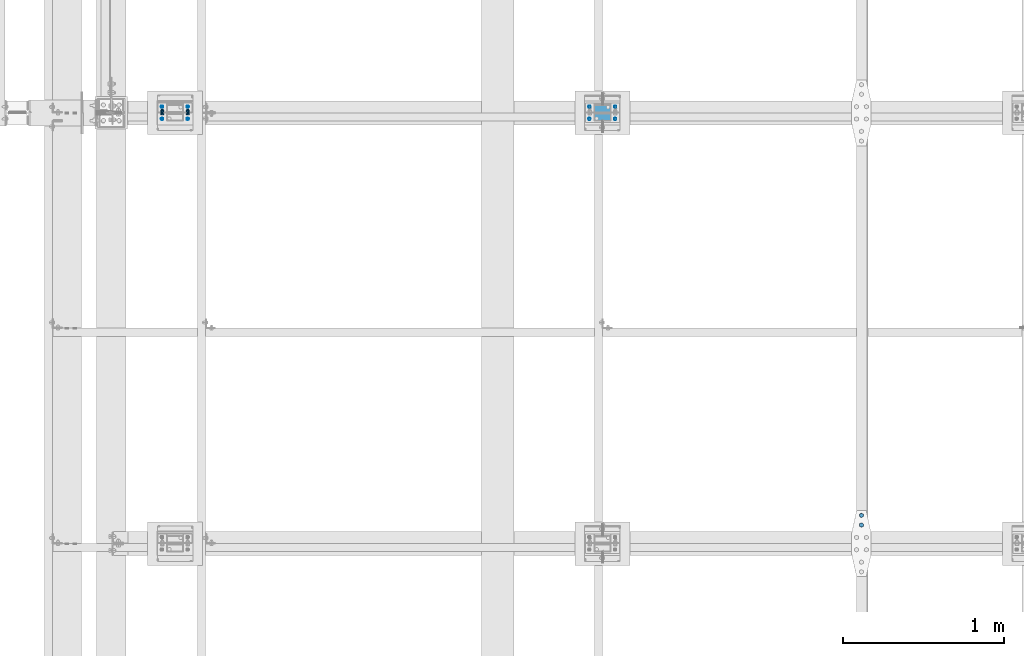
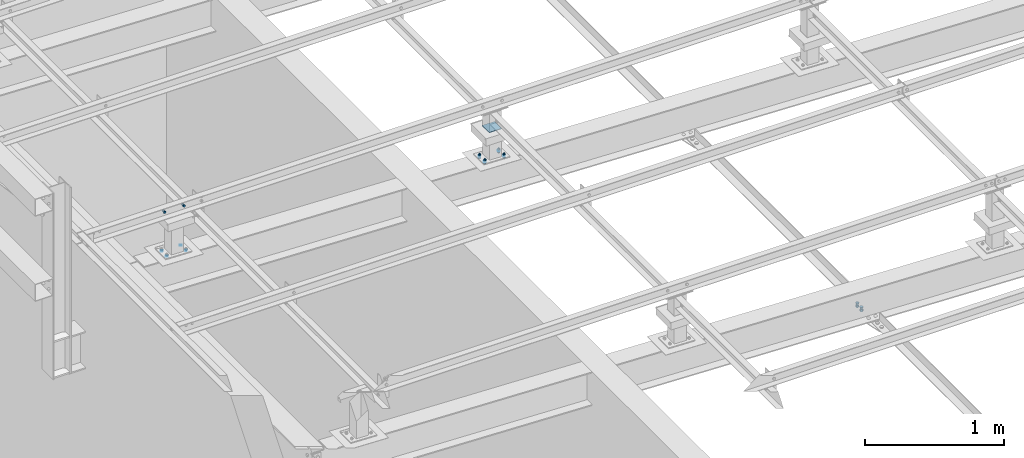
# One storey, part 183 of 3134: 6 mechanical fasteners, 5 elements without a shape of their own.
"""IFC2X3 building model written with IfcOpenShell, lengths in millimetres."""

from ifc_helpers import new_model, si_unit, frame, origin_with_axes, place, context, subcontext, project, spatial, faceted_brep, source, transform, mapped, material, type_object, element, aggregate, save


model = new_model("IFC2X3")

# Units and contexts
model_context = context("Model", 3, precision=1e-05, world=origin_with_axes())
body_context = subcontext(model_context, "Body", "Model", "MODEL_VIEW")
ifc_project = project(units=[si_unit("LENGTHUNIT", "METRE", prefix="MILLI"), si_unit("AREAUNIT", "SQUARE_METRE"), si_unit("VOLUMEUNIT", "CUBIC_METRE"), si_unit("MASSUNIT", "GRAM", prefix="KILO"), si_unit("TIMEUNIT", "SECOND"), si_unit("PLANEANGLEUNIT", "RADIAN"), si_unit("SOLIDANGLEUNIT", "STERADIAN"), si_unit("THERMODYNAMICTEMPERATUREUNIT", "DEGREE_CELSIUS"), si_unit("LUMINOUSINTENSITYUNIT", "LUMEN")], contexts=[model_context])

# Site, building, storey
site_placement = place(None, origin_with_axes())
site = spatial("IfcSite", under=ifc_project, at=site_placement, CompositionType="ELEMENT")
building_placement = place(site_placement, origin_with_axes())
building = spatial("IfcBuilding", under=site, at=building_placement, Name="Undefined", CompositionType="ELEMENT")
storey_placement = place(building_placement, origin_with_axes())
storey = spatial("IfcBuildingStorey", under=building, at=storey_placement, Name="Undefined", CompositionType="ELEMENT", Elevation=0.0)

# Assembly, mechanical fastener
assembly_1_placement = place(storey_placement, origin_with_axes())
assembly_1 = element("IfcElementAssembly", 1, at=assembly_1_placement, inside=storey, Name="PL8", AssemblyPlace="NOTDEFINED", PredefinedType="RIGID_FRAME")
ifc_material_1 = material(Name="8.8")
mechanical_fastener_type = type_object("IfcMechanicalFastenerType", Name="Bolt assembly")
shared_shape_1 = source(origin_with_axes(), body_context, "Body", "Brep", [
    faceted_brep([(13.856406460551, -21.0000017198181, 0.0), (6.92820323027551, -21.0000017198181, 12.0), (-6.92820323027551, -21.0000017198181, 12.0), (-13.856406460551, -21.0000017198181, 1.69692038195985e-15), (-6.92820323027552, -21.0000017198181, -12.0), (6.9282032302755, -21.0000017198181, -12.0), (6.9282032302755, -11.0000017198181, -12.0), (-6.92820323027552, -11.0000017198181, -12.0), (-13.856406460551, -11.0000017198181, 1.69692038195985e-15), (-6.92820323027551, -11.0000017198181, 12.0), (6.92820323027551, -11.0000017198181, 12.0), (13.856406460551, -11.0000017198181, 0.0), (8.0, -11.0000017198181, 0.0), (6.92820323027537, -11.0000017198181, 4.00000000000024), (3.99999999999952, -11.0000017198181, 6.92820323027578), (-8.29068785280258e-13, -11.0000017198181, 8.0), (-4.00000000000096, -11.0000017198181, 6.92820323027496), (-6.9282032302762, -11.0000017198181, 3.99999999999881), (-8.0, -11.0000017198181, -1.65813757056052e-12), (-6.92820323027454, -11.0000017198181, -4.00000000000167), (-3.99999999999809, -11.0000017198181, -6.92820323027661), (2.47832457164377e-12, -11.0000017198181, -8.0), (4.00000000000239, -11.0000017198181, -6.92820323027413), (6.92820323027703, -11.0000017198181, -3.99999999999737), (6.92820323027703, 23.9999999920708, -3.99999999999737), (4.00000000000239, 23.9999999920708, -6.92820323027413), (2.47832457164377e-12, 23.9999999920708, -8.0), (-3.99999999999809, 23.9999999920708, -6.92820323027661), (-6.92820323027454, 23.9999999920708, -4.00000000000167), (-8.0, 23.9999999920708, -1.65813757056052e-12), (-6.9282032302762, 23.9999999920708, 3.99999999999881), (-4.00000000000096, 23.9999999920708, 6.92820323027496), (-8.29068785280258e-13, 23.9999999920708, 8.0), (3.99999999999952, 23.9999999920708, 6.92820323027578), (6.92820323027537, 23.9999999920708, 4.00000000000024), (8.0, 23.9999999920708, 0.0), (13.856406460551, 3.99999999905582, 0.0), (6.92820323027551, 3.99999999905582, 12.0), (-6.92820323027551, 3.99999999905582, 12.0), (-13.856406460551, 3.99999999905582, 1.69692038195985e-15), (-6.92820323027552, 3.99999999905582, -12.0), (6.9282032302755, 3.99999999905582, -12.0), (6.9282032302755, 16.9999999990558, -12.0), (-6.92820323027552, 16.9999999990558, -12.0), (-13.856406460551, 16.9999999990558, 1.69692038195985e-15), (-6.92820323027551, 16.9999999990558, 12.0), (6.92820323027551, 16.9999999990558, 12.0), (13.856406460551, 16.9999999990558, 0.0)], [[[0, 1, 2, 3, 4, 5]], [[6, 7, 8, 9, 10, 11]], [[0, 11, 10, 1]], [[1, 10, 9, 2]], [[2, 9, 8, 3]], [[3, 8, 7, 4]], [[4, 7, 6, 5]], [[5, 6, 11, 0]], [[12, 13, 14, 15, 16, 17, 18, 19, 20, 21, 22, 23]], [[24, 25, 26, 27, 28, 29, 30, 31, 32, 33, 34, 35]], [[12, 35, 34, 13]], [[13, 34, 33, 14]], [[14, 33, 32, 15]], [[15, 32, 31, 16]], [[16, 31, 30, 17]], [[17, 30, 29, 18]], [[18, 29, 28, 19]], [[19, 28, 27, 20]], [[20, 27, 26, 21]], [[21, 26, 25, 22]], [[22, 25, 24, 23]], [[23, 24, 35, 12]], [[36, 37, 38, 39, 40, 41]], [[42, 43, 44, 45, 46, 47]], [[36, 47, 46, 37]], [[37, 46, 45, 38]], [[38, 45, 44, 39]], [[39, 44, 43, 40]], [[40, 43, 42, 41]], [[41, 42, 47, 36]]]),
    faceted_brep([(9.0, -10.9000017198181, 0.0), (7.79422863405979, -10.9000017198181, 4.50000000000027), (4.49999999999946, -10.9000017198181, 7.79422863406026), (-9.3270238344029e-13, -10.9000017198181, 9.0), (-4.50000000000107, -10.9000017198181, 7.79422863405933), (-7.79422863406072, -10.9000017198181, 4.49999999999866), (-9.0, -10.9000017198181, -1.86540476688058e-12), (-7.79422863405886, -10.9000017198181, -4.50000000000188), (-4.49999999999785, -10.9000017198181, -7.79422863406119), (2.78811514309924e-12, -10.9000017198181, -9.0), (4.50000000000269, -10.9000017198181, -7.7942286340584), (7.79422863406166, -10.9000017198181, -4.49999999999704), (7.79422863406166, -3.9, -4.49999999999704), (4.50000000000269, -3.9, -7.7942286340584), (2.78811514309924e-12, -3.9, -9.0), (-4.49999999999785, -3.9, -7.79422863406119), (-7.79422863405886, -3.9, -4.50000000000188), (-9.0, -3.9, -1.86540476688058e-12), (-7.79422863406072, -3.9, 4.49999999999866), (-4.50000000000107, -3.9, 7.79422863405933), (-9.3270238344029e-13, -3.9, 9.0), (4.49999999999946, -3.9, 7.79422863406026), (7.79422863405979, -3.9, 4.50000000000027), (9.0, -3.9, 0.0), (9.0, -4.10000000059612, 0.0), (7.79422863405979, -4.10000000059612, 4.50000000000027), (4.49999999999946, -4.10000000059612, 7.79422863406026), (-9.3270238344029e-13, -4.10000000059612, 9.0), (-4.50000000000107, -4.10000000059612, 7.79422863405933), (-7.79422863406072, -4.10000000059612, 4.49999999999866), (-9.0, -4.10000000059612, -1.86540476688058e-12), (-7.79422863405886, -4.10000000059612, -4.50000000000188), (-4.49999999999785, -4.10000000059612, -7.79422863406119), (2.78811514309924e-12, -4.10000000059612, -9.0), (4.50000000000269, -4.10000000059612, -7.7942286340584), (7.79422863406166, -4.10000000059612, -4.49999999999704), (7.79422863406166, 4.00000375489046, -4.49999999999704), (4.50000000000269, 4.00000375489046, -7.7942286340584), (2.78811514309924e-12, 4.00000375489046, -9.0), (-4.49999999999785, 4.00000375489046, -7.79422863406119), (-7.79422863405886, 4.00000375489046, -4.50000000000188), (-9.0, 4.00000375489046, -1.86540476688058e-12), (-7.79422863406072, 4.00000375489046, 4.49999999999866), (-4.50000000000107, 4.00000375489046, 7.79422863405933), (-9.3270238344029e-13, 4.00000375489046, 9.0), (4.49999999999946, 4.00000375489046, 7.79422863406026), (7.79422863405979, 4.00000375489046, 4.50000000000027), (9.0, 4.00000375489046, 0.0)], [[[0, 1, 2, 3, 4, 5, 6, 7, 8, 9, 10, 11]], [[12, 13, 14, 15, 16, 17, 18, 19, 20, 21, 22, 23]], [[0, 23, 22, 1]], [[1, 22, 21, 2]], [[2, 21, 20, 3]], [[3, 20, 19, 4]], [[4, 19, 18, 5]], [[5, 18, 17, 6]], [[6, 17, 16, 7]], [[7, 16, 15, 8]], [[8, 15, 14, 9]], [[9, 14, 13, 10]], [[10, 13, 12, 11]], [[11, 12, 23, 0]], [[24, 25, 26, 27, 28, 29, 30, 31, 32, 33, 34, 35]], [[36, 37, 38, 39, 40, 41, 42, 43, 44, 45, 46, 47]], [[24, 47, 46, 25]], [[25, 46, 45, 26]], [[26, 45, 44, 27]], [[27, 44, 43, 28]], [[28, 43, 42, 29]], [[29, 42, 41, 30]], [[30, 41, 40, 31]], [[31, 40, 39, 32]], [[32, 39, 38, 33]], [[33, 38, 37, 34]], [[34, 37, 36, 35]], [[35, 36, 47, 24]]]),
])
mechanical_fastener_1_placement = place(assembly_1_placement, frame((4647.50483525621, 37696.25, 3576.15051900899), z_axis=(-0.999388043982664, 0.0, 0.0349791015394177), x_axis=(0.0, 1.0, 0.0)))
mechanical_fastener_1 = element("IfcMechanicalFastener", 2, at=mechanical_fastener_1_placement, type_object=mechanical_fastener_type, material=ifc_material_1, Name="Bolt assembly", NominalDiameter=16.0, NominalLength=35.0, context=body_context, shape_type="MappedRepresentation", body=[
    mapped(shared_shape_1, transform((0.0, 0.0, 0.0))),
    mapped(shared_shape_1, transform((59.9999999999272, 0.0, 5.40239852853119e-10))),
])
aggregate(assembly_1, [mechanical_fastener_1])

assembly_2_placement = place(storey_placement, origin_with_axes())
assembly_2 = element("IfcElementAssembly", 3, at=assembly_2_placement, inside=storey, AssemblyPlace="NOTDEFINED", PredefinedType="RIGID_FRAME")
shared_shape_2 = source(origin_with_axes(), body_context, "Body", "Brep", [
    faceted_brep([(10.9696551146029, -4.1972538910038, 0.0), (5.48482755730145, -4.1972538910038, 9.5), (-5.48482755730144, -4.1972538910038, 9.5), (-10.9696551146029, -4.1972538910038, 1.34339530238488e-15), (-5.48482755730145, -4.1972538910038, -9.5), (5.48482755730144, -4.1972538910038, -9.50000000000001), (5.48482755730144, 3.8027461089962, -9.50000000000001), (-5.48482755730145, 3.8027461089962, -9.5), (-10.9696551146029, 3.8027461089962, 1.34339530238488e-15), (-5.48482755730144, 3.8027461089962, 9.5), (5.48482755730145, 3.8027461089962, 9.5), (10.9696551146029, 3.8027461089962, 0.0), (6.0, 3.8027461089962, 0.0), (5.19615242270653, 3.8027461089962, 3.00000000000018), (2.99999999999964, 3.8027461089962, 5.19615242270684), (-6.21801588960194e-13, 3.8027461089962, 6.0), (-3.00000000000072, 3.8027461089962, 5.19615242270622), (-5.19615242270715, 3.8027461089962, 2.9999999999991), (-6.0, 3.8027461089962, -1.24360317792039e-12), (-5.19615242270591, 3.8027461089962, -3.00000000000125), (-2.99999999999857, 3.8027461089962, -5.19615242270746), (1.85874342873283e-12, 3.8027461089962, -6.0), (3.00000000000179, 3.8027461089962, -5.1961524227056), (5.19615242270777, 3.8027461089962, -2.99999999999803), (5.19615242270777, 38.8027461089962, -2.99999999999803), (3.00000000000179, 38.8027461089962, -5.1961524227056), (1.85874342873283e-12, 38.8027461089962, -6.0), (-2.99999999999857, 38.8027461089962, -5.19615242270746), (-5.19615242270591, 38.8027461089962, -3.00000000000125), (-6.0, 38.8027461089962, -1.24360317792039e-12), (-5.19615242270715, 38.8027461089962, 2.9999999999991), (-3.00000000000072, 38.8027461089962, 5.19615242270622), (-6.21801588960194e-13, 38.8027461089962, 6.0), (2.99999999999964, 38.8027461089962, 5.19615242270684), (5.19615242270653, 38.8027461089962, 3.00000000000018), (6.0, 38.8027461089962, 0.0), (10.9696551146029, 23.0139082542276, 0.0), (5.48482755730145, 23.0139082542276, 9.5), (-5.48482755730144, 23.0139082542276, 9.5), (-10.9696551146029, 23.0139082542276, 1.34339530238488e-15), (-5.48482755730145, 23.0139082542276, -9.5), (5.48482755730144, 23.0139082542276, -9.50000000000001), (5.48482755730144, 33.0139082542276, -9.50000000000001), (-5.48482755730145, 33.0139082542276, -9.5), (-10.9696551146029, 33.0139082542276, 1.34339530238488e-15), (-5.48482755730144, 33.0139082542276, 9.5), (5.48482755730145, 33.0139082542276, 9.5), (10.9696551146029, 33.0139082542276, 0.0)], [[[0, 1, 2, 3, 4, 5]], [[6, 7, 8, 9, 10, 11]], [[0, 11, 10, 1]], [[1, 10, 9, 2]], [[2, 9, 8, 3]], [[3, 8, 7, 4]], [[4, 7, 6, 5]], [[5, 6, 11, 0]], [[12, 13, 14, 15, 16, 17, 18, 19, 20, 21, 22, 23]], [[24, 25, 26, 27, 28, 29, 30, 31, 32, 33, 34, 35]], [[12, 35, 34, 13]], [[13, 34, 33, 14]], [[14, 33, 32, 15]], [[15, 32, 31, 16]], [[16, 31, 30, 17]], [[17, 30, 29, 18]], [[18, 29, 28, 19]], [[19, 28, 27, 20]], [[20, 27, 26, 21]], [[21, 26, 25, 22]], [[22, 25, 24, 23]], [[23, 24, 35, 12]], [[36, 37, 38, 39, 40, 41]], [[42, 43, 44, 45, 46, 47]], [[36, 47, 46, 37]], [[37, 46, 45, 38]], [[38, 45, 44, 39]], [[39, 44, 43, 40]], [[40, 43, 42, 41]], [[41, 42, 47, 36]]]),
    faceted_brep([(7.0, 3.9027461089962, 0.0), (6.06217782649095, 3.9027461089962, 3.50000000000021), (3.49999999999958, 3.9027461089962, 6.06217782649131), (-7.25435187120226e-13, 3.9027461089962, 7.0), (-3.50000000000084, 3.9027461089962, 6.06217782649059), (-6.06217782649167, 3.9027461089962, 3.49999999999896), (-7.0, 3.9027461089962, -1.45087037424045e-12), (-6.06217782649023, 3.9027461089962, -3.50000000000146), (-3.49999999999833, 3.9027461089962, -6.06217782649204), (2.1685340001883e-12, 3.9027461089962, -7.0), (3.50000000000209, 3.9027461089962, -6.06217782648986), (6.0621778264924, 3.9027461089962, -3.4999999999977), (6.0621778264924, 13.1027459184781, -3.4999999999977), (3.50000000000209, 13.1027459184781, -6.06217782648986), (2.1685340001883e-12, 13.1027459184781, -7.0), (-3.49999999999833, 13.1027459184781, -6.06217782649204), (-6.06217782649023, 13.1027459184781, -3.50000000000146), (-7.0, 13.1027459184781, -1.45087037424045e-12), (-6.06217782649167, 13.1027459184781, 3.49999999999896), (-3.50000000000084, 13.1027459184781, 6.06217782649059), (-7.25435187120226e-13, 13.1027459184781, 7.0), (3.49999999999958, 13.1027459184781, 6.06217782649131), (6.06217782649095, 13.1027459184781, 3.50000000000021), (7.0, 13.1027459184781, 0.0), (7.0, 14.9139082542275, 0.0), (6.06217782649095, 14.9139082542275, 3.50000000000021), (3.49999999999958, 14.9139082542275, 6.06217782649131), (-7.25435187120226e-13, 14.9139082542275, 7.0), (-3.50000000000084, 14.9139082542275, 6.06217782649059), (-6.06217782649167, 14.9139082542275, 3.49999999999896), (-7.0, 14.9139082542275, -1.45087037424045e-12), (-6.06217782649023, 14.9139082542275, -3.50000000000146), (-3.49999999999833, 14.9139082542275, -6.06217782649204), (2.1685340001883e-12, 14.9139082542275, -7.0), (3.50000000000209, 14.9139082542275, -6.06217782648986), (6.0621778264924, 14.9139082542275, -3.4999999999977), (6.0621778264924, 23.0139082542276, -3.4999999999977), (3.50000000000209, 23.0139082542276, -6.06217782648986), (2.1685340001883e-12, 23.0139082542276, -7.0), (-3.49999999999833, 23.0139082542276, -6.06217782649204), (-6.06217782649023, 23.0139082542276, -3.50000000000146), (-7.0, 23.0139082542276, -1.45087037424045e-12), (-6.06217782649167, 23.0139082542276, 3.49999999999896), (-3.50000000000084, 23.0139082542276, 6.06217782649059), (-7.25435187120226e-13, 23.0139082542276, 7.0), (3.49999999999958, 23.0139082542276, 6.06217782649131), (6.06217782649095, 23.0139082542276, 3.50000000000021), (7.0, 23.0139082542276, 0.0)], [[[0, 1, 2, 3, 4, 5, 6, 7, 8, 9, 10, 11]], [[12, 13, 14, 15, 16, 17, 18, 19, 20, 21, 22, 23]], [[0, 23, 22, 1]], [[1, 22, 21, 2]], [[2, 21, 20, 3]], [[3, 20, 19, 4]], [[4, 19, 18, 5]], [[5, 18, 17, 6]], [[6, 17, 16, 7]], [[7, 16, 15, 8]], [[8, 15, 14, 9]], [[9, 14, 13, 10]], [[10, 13, 12, 11]], [[11, 12, 23, 0]], [[24, 25, 26, 27, 28, 29, 30, 31, 32, 33, 34, 35]], [[36, 37, 38, 39, 40, 41, 42, 43, 44, 45, 46, 47]], [[24, 47, 46, 25]], [[25, 46, 45, 26]], [[26, 45, 44, 27]], [[27, 44, 43, 28]], [[28, 43, 42, 29]], [[29, 42, 41, 30]], [[30, 41, 40, 31]], [[31, 40, 39, 32]], [[32, 39, 38, 33]], [[33, 38, 37, 34]], [[34, 37, 36, 35]], [[35, 36, 47, 24]]]),
])
mechanical_fastener_2_placement = place(assembly_2_placement, frame((3042.5231765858, 40287.9999999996, 3920.50000668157), z_axis=(-0.999387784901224, 0.0, 0.0349865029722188), x_axis=(0.0, -1.0, 0.0)))
mechanical_fastener_2 = element("IfcMechanicalFastener", 4, at=mechanical_fastener_2_placement, type_object=mechanical_fastener_type, material=ifc_material_1, Name="Bolt assembly", NominalDiameter=12.0, NominalLength=35.0, context=body_context, shape_type="MappedRepresentation", body=[
    mapped(shared_shape_2, transform((0.0, -5.32963895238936e-10, -79.9999999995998))),
    mapped(shared_shape_2, transform((76.0, -5.32963895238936e-10, -79.9999999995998))),
    mapped(shared_shape_2, transform((0.0, 5.3114490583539e-10, 79.9999999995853))),
    mapped(shared_shape_2, transform((76.0, 5.3114490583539e-10, 79.9999999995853))),
])

assembly_3_placement = place(storey_placement, origin_with_axes())
assembly_3 = element("IfcElementAssembly", 5, at=assembly_3_placement, inside=storey, AssemblyPlace="NOTDEFINED", PredefinedType="RIGID_FRAME")
shared_shape_3 = source(origin_with_axes(), body_context, "Body", "Brep", [
    faceted_brep([(7.0, 13.0000253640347, 0.0), (6.06217782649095, 13.0000253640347, 3.50000000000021), (3.49999999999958, 13.0000253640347, 6.06217782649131), (-7.25435187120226e-13, 13.0000253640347, 7.0), (-3.50000000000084, 13.0000253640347, 6.06217782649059), (-6.06217782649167, 13.0000253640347, 3.49999999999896), (-7.0, 13.0000253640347, -1.45087037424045e-12), (-6.06217782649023, 13.0000253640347, -3.50000000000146), (-3.49999999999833, 13.0000253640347, -6.06217782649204), (2.1685340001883e-12, 13.0000253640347, -7.0), (3.50000000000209, 13.0000253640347, -6.06217782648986), (6.0621778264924, 13.0000253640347, -3.4999999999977), (6.0621778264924, 15.0999999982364, -3.4999999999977), (3.50000000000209, 15.0999999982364, -6.06217782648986), (2.1685340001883e-12, 15.0999999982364, -7.0), (-3.49999999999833, 15.0999999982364, -6.06217782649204), (-6.06217782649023, 15.0999999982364, -3.50000000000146), (-7.0, 15.0999999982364, -1.45087037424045e-12), (-6.06217782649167, 15.0999999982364, 3.49999999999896), (-3.50000000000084, 15.0999999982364, 6.06217782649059), (-7.25435187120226e-13, 15.0999999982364, 7.0), (3.49999999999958, 15.0999999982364, 6.06217782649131), (6.06217782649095, 15.0999999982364, 3.50000000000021), (7.0, 15.0999999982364, 0.0)], [[[0, 1, 2, 3, 4, 5, 6, 7, 8, 9, 10, 11]], [[12, 13, 14, 15, 16, 17, 18, 19, 20, 21, 22, 23]], [[0, 23, 22, 1]], [[1, 22, 21, 2]], [[2, 21, 20, 3]], [[3, 20, 19, 4]], [[4, 19, 18, 5]], [[5, 18, 17, 6]], [[6, 17, 16, 7]], [[7, 16, 15, 8]], [[8, 15, 14, 9]], [[9, 14, 13, 10]], [[10, 13, 12, 11]], [[11, 12, 23, 0]]]),
])
mechanical_fastener_3_placement = place(assembly_3_placement, frame((3042.5231765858, 40287.9999999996, 3920.50000668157), z_axis=(-0.999387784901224, 0.0, 0.0349865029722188), x_axis=(0.0, -1.0, 0.0)))
mechanical_fastener_3 = element("IfcMechanicalFastener", 6, at=mechanical_fastener_3_placement, type_object=mechanical_fastener_type, material=ifc_material_1, Name="Bolt assembly", NominalDiameter=12.0, NominalLength=2.0, context=body_context, shape_type="MappedRepresentation", body=[
    mapped(shared_shape_3, transform((0.0, -5.32963895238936e-10, -79.9999999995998))),
    mapped(shared_shape_3, transform((76.0, -5.32963895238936e-10, -79.9999999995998))),
    mapped(shared_shape_3, transform((0.0, 5.3114490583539e-10, 79.9999999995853))),
    mapped(shared_shape_3, transform((76.0, 5.3114490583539e-10, 79.9999999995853))),
])
aggregate(assembly_3, [mechanical_fastener_3])

assembly_4_placement = place(storey_placement, origin_with_axes())
assembly_4 = element("IfcElementAssembly", 7, at=assembly_4_placement, inside=storey, AssemblyPlace="NOTDEFINED", PredefinedType="RIGID_FRAME")
mechanical_fastener_4_placement = place(assembly_4_placement, frame((394.193176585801, 40287.9999999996, 4013.19000668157), z_axis=(-0.999387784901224, 0.0, 0.0349865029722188), x_axis=(0.0, -1.0, 0.0)))
mechanical_fastener_4 = element("IfcMechanicalFastener", 8, at=mechanical_fastener_4_placement, type_object=mechanical_fastener_type, material=ifc_material_1, Name="Bolt assembly", NominalDiameter=12.0, NominalLength=2.0, context=body_context, shape_type="MappedRepresentation", body=[
    mapped(shared_shape_3, transform((0.0, -5.32963895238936e-10, -79.9999999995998))),
    mapped(shared_shape_3, transform((76.0, -5.32963895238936e-10, -79.9999999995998))),
    mapped(shared_shape_3, transform((0.0, 5.3114490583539e-10, 79.9999999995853))),
    mapped(shared_shape_3, transform((76.0, 5.3114490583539e-10, 79.9999999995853))),
])
aggregate(assembly_4, [mechanical_fastener_4])

# Mechanical fastener
ifc_material_2 = material(Name="6.8")
shared_shape_4 = source(origin_with_axes(), body_context, "Body", "Brep", [
    faceted_brep([(51.5, 1.36424205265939e-12, 50.0), (51.3858192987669, 1.36424205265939e-12, 50.5740251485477), (51.0606601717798, 1.36424205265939e-12, 51.0606601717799), (50.5740251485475, 1.36424205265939e-12, 51.385819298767), (-50.0000000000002, 1.36424205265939e-12, 51.5), (-50.7500000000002, 1.36424205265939e-12, 51.2990381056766), (-51.2990381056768, 1.36424205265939e-12, 50.7499999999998), (-51.5, 1.36424205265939e-12, 49.9999999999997), (-51.5, 1.36424205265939e-12, -50.0000000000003), (-51.2990381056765, 1.36424205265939e-12, -50.7500000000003), (-50.7499999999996, 1.36424205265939e-12, -51.2990381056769), (-49.9999999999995, 1.36424205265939e-12, -51.5), (50.0000000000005, 1.36424205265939e-12, -51.5), (50.7500000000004, 1.36424205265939e-12, -51.2990381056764), (51.2990381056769, 1.36424205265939e-12, -50.7499999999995), (51.5, 1.36424205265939e-12, -49.9999999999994), (51.5, 5.10000000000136, -49.9999999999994), (51.2990381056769, 5.10000000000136, -50.7499999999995), (50.7500000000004, 5.10000000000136, -51.2990381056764), (50.0000000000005, 5.10000000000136, -51.5), (-49.9999999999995, 5.10000000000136, -51.5), (-50.7499999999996, 5.10000000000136, -51.2990381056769), (-51.2990381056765, 5.10000000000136, -50.7500000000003), (-51.5, 5.10000000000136, -50.0000000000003), (-51.5, 5.10000000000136, 49.9999999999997), (-51.2990381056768, 5.10000000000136, 50.7499999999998), (-50.7500000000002, 5.10000000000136, 51.2990381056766), (-50.0000000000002, 5.10000000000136, 51.5), (50.5740251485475, 5.10000000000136, 51.385819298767), (51.0606601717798, 5.10000000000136, 51.0606601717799), (51.3858192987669, 5.10000000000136, 50.5740251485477), (51.5, 5.10000000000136, 50.0)], [[[0, 1, 2, 3, 4, 5, 6, 7, 8, 9, 10, 11, 12, 13, 14, 15]], [[16, 17, 18, 19, 20, 21, 22, 23, 24, 25, 26, 27, 28, 29, 30, 31]], [[0, 31, 30, 1]], [[1, 30, 29, 2]], [[2, 29, 28, 3]], [[3, 28, 27, 4]], [[4, 27, 26, 5]], [[5, 26, 25, 6]], [[6, 25, 24, 7]], [[7, 24, 23, 8]], [[8, 23, 22, 9]], [[9, 22, 21, 10]], [[10, 21, 20, 11]], [[11, 20, 19, 12]], [[12, 19, 18, 13]], [[13, 18, 17, 14]], [[14, 17, 16, 15]], [[15, 16, 31, 0]]]),
])
mechanical_fastener_5_placement = place(assembly_2_placement, frame((3043.33, 40250.0, 4190.29), z_axis=(0.0, -1.0, 0.0), x_axis=(-1.0, 0.0, 0.0)))
mechanical_fastener_5 = element("IfcMechanicalFastener", 9, at=mechanical_fastener_5_placement, type_object=mechanical_fastener_type, material=ifc_material_2, Name="Bolt assembly", NominalDiameter=10.0, NominalLength=5.0, context=body_context, shape_type="MappedRepresentation", body=[
    mapped(shared_shape_4, transform((0.0, 0.0, 0.0))),
])

aggregate(assembly_2, [mechanical_fastener_2, mechanical_fastener_5])

# Assembly, mechanical fastener
assembly_5_placement = place(storey_placement, origin_with_axes())
assembly_5 = element("IfcElementAssembly", 10, at=assembly_5_placement, inside=storey, AssemblyPlace="NOTDEFINED", PredefinedType="RIGID_FRAME")
shared_shape_5 = source(origin_with_axes(), body_context, "Body", "Brep", [
    faceted_brep([(10.9696551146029, -12.0, 0.0), (5.48482755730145, -12.0, 9.5), (-5.48482755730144, -12.0, 9.5), (-10.9696551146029, -12.0, 1.34339530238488e-15), (-5.48482755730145, -12.0, -9.5), (5.48482755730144, -12.0, -9.50000000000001), (5.48482755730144, -4.0, -9.50000000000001), (-5.48482755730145, -4.0, -9.5), (-10.9696551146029, -4.0, 1.34339530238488e-15), (-5.48482755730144, -4.0, 9.5), (5.48482755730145, -4.0, 9.5), (10.9696551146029, -4.0, 0.0), (6.0, -4.0, 0.0), (5.19615242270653, -4.0, 3.00000000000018), (2.99999999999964, -4.0, 5.19615242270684), (-6.21801588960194e-13, -4.0, 6.0), (-3.00000000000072, -4.0, 5.19615242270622), (-5.19615242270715, -4.0, 2.9999999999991), (-6.0, -4.0, -1.24360317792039e-12), (-5.19615242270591, -4.0, -3.00000000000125), (-2.99999999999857, -4.0, -5.19615242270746), (1.85874342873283e-12, -4.0, -6.0), (3.00000000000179, -4.0, -5.1961524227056), (5.19615242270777, -4.0, -2.99999999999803), (5.19615242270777, 21.0, -2.99999999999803), (3.00000000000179, 21.0, -5.1961524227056), (1.85874342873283e-12, 21.0, -6.0), (-2.99999999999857, 21.0, -5.19615242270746), (-5.19615242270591, 21.0, -3.00000000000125), (-6.0, 21.0, -1.24360317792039e-12), (-5.19615242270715, 21.0, 2.9999999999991), (-3.00000000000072, 21.0, 5.19615242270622), (-6.21801588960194e-13, 21.0, 6.0), (2.99999999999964, 21.0, 5.19615242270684), (5.19615242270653, 21.0, 3.00000000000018), (6.0, 21.0, 0.0), (10.9696551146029, 6.00000000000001, 0.0), (5.48482755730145, 6.00000000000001, 9.5), (-5.48482755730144, 6.00000000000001, 9.5), (-10.9696551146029, 6.00000000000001, 1.34339530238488e-15), (-5.48482755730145, 6.00000000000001, -9.5), (5.48482755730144, 6.00000000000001, -9.50000000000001), (5.48482755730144, 16.0, -9.50000000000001), (-5.48482755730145, 16.0, -9.5), (-10.9696551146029, 16.0, 1.34339530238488e-15), (-5.48482755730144, 16.0, 9.5), (5.48482755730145, 16.0, 9.5), (10.9696551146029, 16.0, 0.0)], [[[0, 1, 2, 3, 4, 5]], [[6, 7, 8, 9, 10, 11]], [[0, 11, 10, 1]], [[1, 10, 9, 2]], [[2, 9, 8, 3]], [[3, 8, 7, 4]], [[4, 7, 6, 5]], [[5, 6, 11, 0]], [[12, 13, 14, 15, 16, 17, 18, 19, 20, 21, 22, 23]], [[24, 25, 26, 27, 28, 29, 30, 31, 32, 33, 34, 35]], [[12, 35, 34, 13]], [[13, 34, 33, 14]], [[14, 33, 32, 15]], [[15, 32, 31, 16]], [[16, 31, 30, 17]], [[17, 30, 29, 18]], [[18, 29, 28, 19]], [[19, 28, 27, 20]], [[20, 27, 26, 21]], [[21, 26, 25, 22]], [[22, 25, 24, 23]], [[23, 24, 35, 12]], [[36, 37, 38, 39, 40, 41]], [[42, 43, 44, 45, 46, 47]], [[36, 47, 46, 37]], [[37, 46, 45, 38]], [[38, 45, 44, 39]], [[39, 44, 43, 40]], [[40, 43, 42, 41]], [[41, 42, 47, 36]]]),
    faceted_brep([(7.0, -3.9, 0.0), (6.06217782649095, -3.9, 3.50000000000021), (3.49999999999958, -3.9, 6.06217782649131), (-7.25435187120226e-13, -3.9, 7.0), (-3.50000000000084, -3.9, 6.06217782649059), (-6.06217782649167, -3.9, 3.49999999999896), (-7.0, -3.9, -1.45087037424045e-12), (-6.06217782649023, -3.9, -3.50000000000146), (-3.49999999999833, -3.9, -6.06217782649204), (2.1685340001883e-12, -3.9, -7.0), (3.50000000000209, -3.9, -6.06217782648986), (6.0621778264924, -3.9, -3.4999999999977), (6.0621778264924, 0.0999999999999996, -3.4999999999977), (3.50000000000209, 0.0999999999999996, -6.06217782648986), (2.1685340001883e-12, 0.0999999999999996, -7.0), (-3.49999999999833, 0.0999999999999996, -6.06217782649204), (-6.06217782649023, 0.0999999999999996, -3.50000000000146), (-7.0, 0.0999999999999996, -1.45087037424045e-12), (-6.06217782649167, 0.0999999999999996, 3.49999999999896), (-3.50000000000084, 0.0999999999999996, 6.06217782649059), (-7.25435187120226e-13, 0.0999999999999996, 7.0), (3.49999999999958, 0.0999999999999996, 6.06217782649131), (6.06217782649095, 0.0999999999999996, 3.50000000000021), (7.0, 0.0999999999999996, 0.0), (7.0, -0.1, 0.0), (6.06217782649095, -0.1, 3.50000000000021), (3.49999999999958, -0.1, 6.06217782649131), (-7.25435187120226e-13, -0.1, 7.0), (-3.50000000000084, -0.1, 6.06217782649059), (-6.06217782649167, -0.1, 3.49999999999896), (-7.0, -0.1, -1.45087037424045e-12), (-6.06217782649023, -0.1, -3.50000000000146), (-3.49999999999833, -0.1, -6.06217782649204), (2.1685340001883e-12, -0.1, -7.0), (3.50000000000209, -0.1, -6.06217782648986), (6.0621778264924, -0.1, -3.4999999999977), (6.0621778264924, 6.00000000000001, -3.4999999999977), (3.50000000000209, 6.00000000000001, -6.06217782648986), (2.1685340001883e-12, 6.00000000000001, -7.0), (-3.49999999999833, 6.00000000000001, -6.06217782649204), (-6.06217782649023, 6.00000000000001, -3.50000000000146), (-7.0, 6.00000000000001, -1.45087037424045e-12), (-6.06217782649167, 6.00000000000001, 3.49999999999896), (-3.50000000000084, 6.00000000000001, 6.06217782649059), (-7.25435187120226e-13, 6.00000000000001, 7.0), (3.49999999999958, 6.00000000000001, 6.06217782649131), (6.06217782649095, 6.00000000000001, 3.50000000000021), (7.0, 6.00000000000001, 0.0)], [[[0, 1, 2, 3, 4, 5, 6, 7, 8, 9, 10, 11]], [[12, 13, 14, 15, 16, 17, 18, 19, 20, 21, 22, 23]], [[0, 23, 22, 1]], [[1, 22, 21, 2]], [[2, 21, 20, 3]], [[3, 20, 19, 4]], [[4, 19, 18, 5]], [[5, 18, 17, 6]], [[6, 17, 16, 7]], [[7, 16, 15, 8]], [[8, 15, 14, 9]], [[9, 14, 13, 10]], [[10, 13, 12, 11]], [[11, 12, 23, 0]], [[24, 25, 26, 27, 28, 29, 30, 31, 32, 33, 34, 35]], [[36, 37, 38, 39, 40, 41, 42, 43, 44, 45, 46, 47]], [[24, 47, 46, 25]], [[25, 46, 45, 26]], [[26, 45, 44, 27]], [[27, 44, 43, 28]], [[28, 43, 42, 29]], [[29, 42, 41, 30]], [[30, 41, 40, 31]], [[31, 40, 39, 32]], [[32, 39, 38, 33]], [[33, 38, 37, 34]], [[34, 37, 36, 35]], [[35, 36, 47, 24]]]),
])
mechanical_fastener_6_placement = place(assembly_5_placement, frame((394.999950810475, 40249.999683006, 4400.0), z_axis=(1.0, 0.0, 0.0), x_axis=(0.0, 0.0, -1.0)))
mechanical_fastener_6 = element("IfcMechanicalFastener", 11, at=mechanical_fastener_6_placement, type_object=mechanical_fastener_type, material=ifc_material_1, Name="Bolt assembly", NominalDiameter=12.0, NominalLength=25.0, context=body_context, shape_type="MappedRepresentation", body=[
    mapped(shared_shape_5, transform((0.0, -5.32963895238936e-10, -79.9999999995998))),
    mapped(shared_shape_5, transform((0.0, 5.3114490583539e-10, 79.9999999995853))),
])
aggregate(assembly_5, [mechanical_fastener_6])

save(model, "model.ifc")
